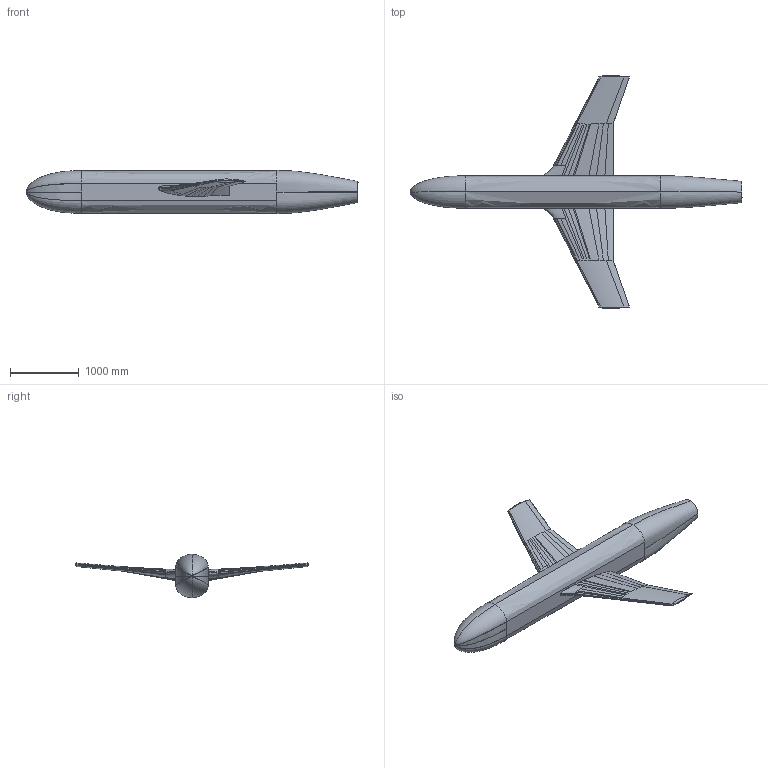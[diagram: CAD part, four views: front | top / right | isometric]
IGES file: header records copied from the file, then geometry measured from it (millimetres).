
Global section: file name: X:\prj6.0\JFM\outgoing\geometry\jfm_harrison_fuselage_8percent-2017_02_06\2018_12_scaled_to_meters_and_mm\jfm_dlr_f6_wHorn_harrison_fuselage_2017_02_06_fullspan_mm.igs; native system: NX V10.0; preprocessor: SIEMENS PLM Software NX 10.0; date: 20181214.134132; units: millimetre
Bounding box: 4839.23 x 3397.16 x 629.72 mm (x, y, z)
Surface area: 12017277.5 mm2 (no closed solid volume)
Topology: 0 solids, 0 shells, 101 faces, 668 edges, 656 vertices
Faces by surface type: bspline 101
